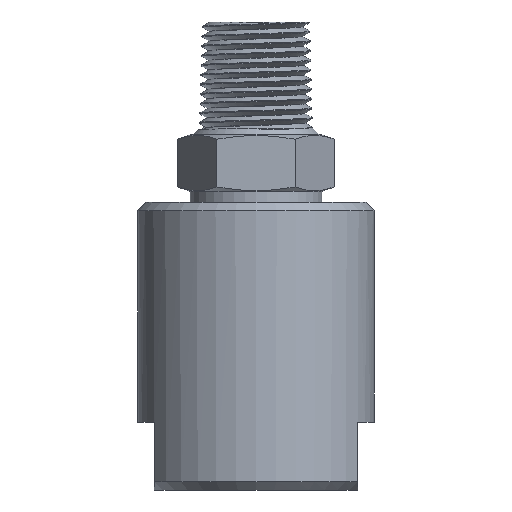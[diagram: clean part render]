
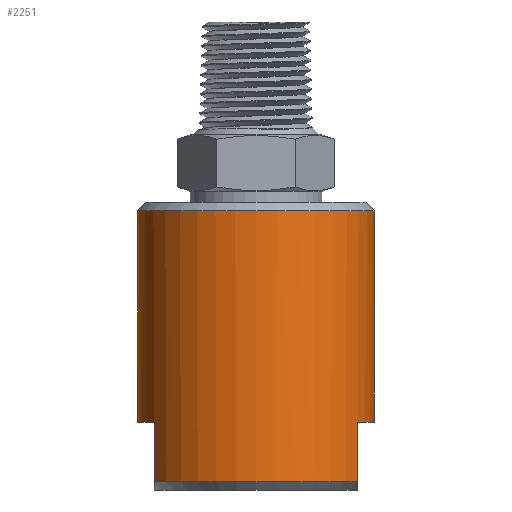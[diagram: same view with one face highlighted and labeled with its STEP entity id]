
A CAD part, left-side view. The second image highlights one B-rep face of the part: STEP entity #2251.
In plain terms, the highlighted cylindrical face has radius 22.225 mm (diameter 44.45 mm), a partial arc.
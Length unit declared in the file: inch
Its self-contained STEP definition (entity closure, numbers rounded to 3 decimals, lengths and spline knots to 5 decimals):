
#7 = EDGE_CURVE ( 'NONE', #6226, #6189, #3563, .T. ) ;
#50 = EDGE_CURVE ( 'NONE', #6189, #6223, #8902, .T. ) ;
#87 = EDGE_CURVE ( 'NONE', #6212, #10026, #8428, .T. ) ;
#94 = EDGE_CURVE ( 'NONE', #6224, #6226, #9619, .T. ) ;
#100 = EDGE_CURVE ( 'NONE', #6219, #6225, #9704, .T. ) ;
#305 = CIRCLE ( 'NONE', #307, 0.875 ) ;
#307 = AXIS2_PLACEMENT_3D ( 'NONE', #5588, #5590, #5591 ) ;
#308 = CIRCLE ( 'NONE', #311, 0.875 ) ;
#310 = CIRCLE ( 'NONE', #313, 0.875 ) ;
#311 = AXIS2_PLACEMENT_3D ( 'NONE', #5603, #5605, #5607 ) ;
#312 = VECTOR ( 'NONE', #5619, 39.37008 ) ;
#313 = AXIS2_PLACEMENT_3D ( 'NONE', #5612, #5614, #5616 ) ;
#327 = VECTOR ( 'NONE', #5804, 39.37008 ) ;
#2251 = ADVANCED_FACE ( 'NONE', ( #12186 ), #7942, .T. ) ;
#2684 = CARTESIAN_POINT ( 'NONE',  ( -0.0041, -0.875, -2.2775 ) ) ;
#2685 = CARTESIAN_POINT ( 'NONE',  ( 0., -0.875, -2.2775 ) ) ;
#2686 = CARTESIAN_POINT ( 'NONE',  ( -0.00812, -0.87497, -2.27669 ) ) ;
#2687 = CARTESIAN_POINT ( 'NONE',  ( -0.01563, -0.87487, -2.27358 ) ) ;
#2688 = CARTESIAN_POINT ( 'NONE',  ( -0.01906, -0.8748, -2.27128 ) ) ;
#2689 = CARTESIAN_POINT ( 'NONE',  ( -0.02764, -0.87458, -2.2627 ) ) ;
#2690 = CARTESIAN_POINT ( 'NONE',  ( -0.031, -0.87445, -2.2546 ) ) ;
#2691 = CARTESIAN_POINT ( 'NONE',  ( -0.031, -0.87445, -2.24247 ) ) ;
#2692 = CARTESIAN_POINT ( 'NONE',  ( -0.0302, -0.87448, -2.2384 ) ) ;
#2693 = CARTESIAN_POINT ( 'NONE',  ( -0.02709, -0.87458, -2.2309 ) ) ;
#2694 = CARTESIAN_POINT ( 'NONE',  ( -0.02482, -0.87465, -2.22748 ) ) ;
#2695 = CARTESIAN_POINT ( 'NONE',  ( -0.01903, -0.8748, -2.22169 ) ) ;
#2696 = CARTESIAN_POINT ( 'NONE',  ( -0.01562, -0.87487, -2.21942 ) ) ;
#2697 = CARTESIAN_POINT ( 'NONE',  ( -0.0081, -0.87497, -2.2163 ) ) ;
#2698 = CARTESIAN_POINT ( 'NONE',  ( -0.00405, -0.875, -2.2155 ) ) ;
#2699 = CARTESIAN_POINT ( 'NONE',  ( 0., -0.875, -2.2155 ) ) ;
#3056 = CARTESIAN_POINT ( 'NONE',  ( -0.45069, 0.75, -2.957 ) ) ;
#3070 = CARTESIAN_POINT ( 'NONE',  ( -0.45069, -0.75, -2.957 ) ) ;
#3081 = CARTESIAN_POINT ( 'NONE',  ( -0.45069, -0.75, -3.395 ) ) ;
#3439 = AXIS2_PLACEMENT_3D ( 'NONE', #7943, #7945, #7946 ) ;
#3563 = B_SPLINE_CURVE_WITH_KNOTS ( 'NONE', 3,
 ( #2685, #2684, #2686, #2687, #2688, #2689, #2690, #2691, #2692, #2693, #2694, #2695, #2696, #2697, #2698, #2699 ),
 .UNSPECIFIED., .F., .F.,
 ( 4, 2, 2, 2, 2, 2, 2, 4 ),
 ( 0., 0.00031, 0.00062, 0.00123, 0.00154, 0.00185, 0.00215, 0.00246 ),
 .UNSPECIFIED. ) ;
#5588 = CARTESIAN_POINT ( 'NONE',  ( 0., 0., -2.957 ) ) ;
#5590 = DIRECTION ( 'NONE',  ( 0., 0., -1. ) ) ;
#5591 = DIRECTION ( 'NONE',  ( 1., 0., 0. ) ) ;
#5600 = LINE ( 'NONE', #5602, #312 ) ;
#5602 = CARTESIAN_POINT ( 'NONE',  ( -0.45069, -0.75, -2.957 ) ) ;
#5603 = CARTESIAN_POINT ( 'NONE',  ( 0., 0., -1.394 ) ) ;
#5605 = DIRECTION ( 'NONE',  ( 0., 0., -1. ) ) ;
#5607 = DIRECTION ( 'NONE',  ( 0., 1., 0. ) ) ;
#5612 = CARTESIAN_POINT ( 'NONE',  ( 0., 0., -2.957 ) ) ;
#5614 = DIRECTION ( 'NONE',  ( 0., 0., -1. ) ) ;
#5616 = DIRECTION ( 'NONE',  ( 1., 0., 0. ) ) ;
#5619 = DIRECTION ( 'NONE',  ( 0., 0., -1. ) ) ;
#5728 = CARTESIAN_POINT ( 'NONE',  ( 0., -0.875, -2.2155 ) ) ;
#5751 = CARTESIAN_POINT ( 'NONE',  ( -0.45069, 0.75, -3.395 ) ) ;
#5758 = CARTESIAN_POINT ( 'NONE',  ( 0., 0.875, -2.957 ) ) ;
#5762 = CARTESIAN_POINT ( 'NONE',  ( 0., -0.875, -1.394 ) ) ;
#5763 = CARTESIAN_POINT ( 'NONE',  ( 0., -0.875, -2.957 ) ) ;
#5764 = CARTESIAN_POINT ( 'NONE',  ( 0., 0.875, -1.394 ) ) ;
#5765 = CARTESIAN_POINT ( 'NONE',  ( 0., -0.875, -2.2775 ) ) ;
#5799 = CARTESIAN_POINT ( 'NONE',  ( -0.45069, 0.75, -2.957 ) ) ;
#5800 = LINE ( 'NONE', #5799, #327 ) ;
#5804 = DIRECTION ( 'NONE',  ( 0., 0., -1. ) ) ;
#6161 = EDGE_CURVE ( 'NONE', #10001, #6219, #305, .T. ) ;
#6163 = EDGE_CURVE ( 'NONE', #6223, #6225, #308, .T. ) ;
#6164 = EDGE_CURVE ( 'NONE', #6224, #10015, #310, .T. ) ;
#6165 = EDGE_CURVE ( 'NONE', #10015, #10026, #5600, .T. ) ;
#6189 = VERTEX_POINT ( 'NONE', #5728 ) ;
#6212 = VERTEX_POINT ( 'NONE', #5751 ) ;
#6219 = VERTEX_POINT ( 'NONE', #5758 ) ;
#6223 = VERTEX_POINT ( 'NONE', #5762 ) ;
#6224 = VERTEX_POINT ( 'NONE', #5763 ) ;
#6225 = VERTEX_POINT ( 'NONE', #5764 ) ;
#6226 = VERTEX_POINT ( 'NONE', #5765 ) ;
#7004 = EDGE_CURVE ( 'NONE', #10001, #6212, #5800, .T. ) ;
#7942 = CYLINDRICAL_SURFACE ( 'NONE', #3439, 0.875 ) ;
#7943 = CARTESIAN_POINT ( 'NONE',  ( 0., 0., -1.20022 ) ) ;
#7945 = DIRECTION ( 'NONE',  ( 0., 0., 1. ) ) ;
#7946 = DIRECTION ( 'NONE',  ( 0., -1., 0. ) ) ;
#8405 = VECTOR ( 'NONE', #9709, 39.37008 ) ;
#8415 = VECTOR ( 'NONE', #9675, 39.37008 ) ;
#8424 = AXIS2_PLACEMENT_3D ( 'NONE', #9564, #9565, #9566 ) ;
#8428 = CIRCLE ( 'NONE', #8424, 0.875 ) ;
#8494 = VECTOR ( 'NONE', #8904, 39.37008 ) ;
#8641 = EDGE_LOOP ( 'NONE', ( #10086, #10087, #10088, #10089, #10090, #10091, #10092, #10093, #10094, #10095 ) ) ;
#8902 = LINE ( 'NONE', #8903, #8494 ) ;
#8903 = CARTESIAN_POINT ( 'NONE',  ( 0., -0.875, -1.20022 ) ) ;
#8904 = DIRECTION ( 'NONE',  ( 0., 0., 1. ) ) ;
#9562 = CARTESIAN_POINT ( 'NONE',  ( 0., -0.875, -1.20022 ) ) ;
#9564 = CARTESIAN_POINT ( 'NONE',  ( 0., 0., -3.395 ) ) ;
#9565 = DIRECTION ( 'NONE',  ( 0., 0., 1. ) ) ;
#9566 = DIRECTION ( 'NONE',  ( 0., -1., 0. ) ) ;
#9619 = LINE ( 'NONE', #9562, #8415 ) ;
#9675 = DIRECTION ( 'NONE',  ( 0., 0., 1. ) ) ;
#9701 = CARTESIAN_POINT ( 'NONE',  ( 0., 0.875, -1.20022 ) ) ;
#9704 = LINE ( 'NONE', #9701, #8405 ) ;
#9709 = DIRECTION ( 'NONE',  ( 0., 0., 1. ) ) ;
#10001 = VERTEX_POINT ( 'NONE', #3056 ) ;
#10015 = VERTEX_POINT ( 'NONE', #3070 ) ;
#10026 = VERTEX_POINT ( 'NONE', #3081 ) ;
#10086 = ORIENTED_EDGE ( 'NONE', *, *, #100, .F. ) ;
#10087 = ORIENTED_EDGE ( 'NONE', *, *, #6161, .F. ) ;
#10088 = ORIENTED_EDGE ( 'NONE', *, *, #7004, .T. ) ;
#10089 = ORIENTED_EDGE ( 'NONE', *, *, #87, .T. ) ;
#10090 = ORIENTED_EDGE ( 'NONE', *, *, #6165, .F. ) ;
#10091 = ORIENTED_EDGE ( 'NONE', *, *, #6164, .F. ) ;
#10092 = ORIENTED_EDGE ( 'NONE', *, *, #94, .T. ) ;
#10093 = ORIENTED_EDGE ( 'NONE', *, *, #7, .T. ) ;
#10094 = ORIENTED_EDGE ( 'NONE', *, *, #50, .T. ) ;
#10095 = ORIENTED_EDGE ( 'NONE', *, *, #6163, .T. ) ;
#12186 = FACE_OUTER_BOUND ( 'NONE', #8641, .T. ) ;
